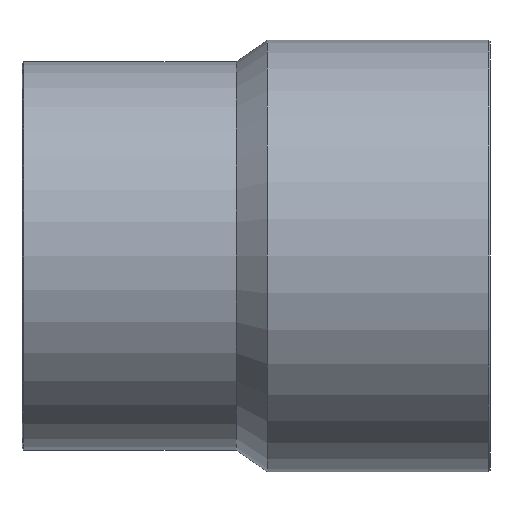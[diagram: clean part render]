
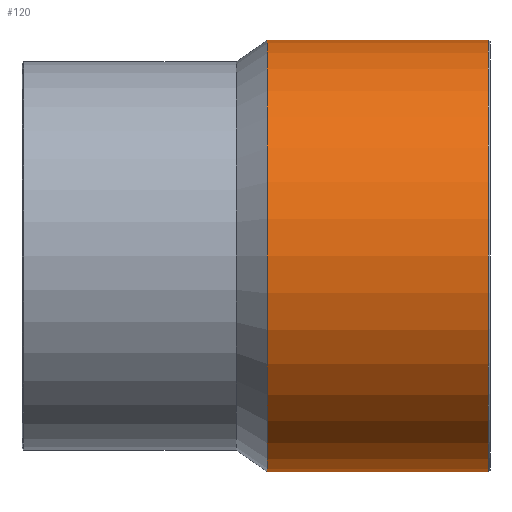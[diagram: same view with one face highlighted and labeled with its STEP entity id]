
A CAD part, front view. The second image highlights one B-rep face of the part: STEP entity #120.
In plain terms, the highlighted cylindrical face has radius 125 mm (diameter 250 mm), a full revolution.
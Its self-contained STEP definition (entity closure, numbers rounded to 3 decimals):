
#26=ORIENTED_EDGE('',*,*,#46,.T.);
#27=ORIENTED_EDGE('',*,*,#47,.F.);
#46=EDGE_CURVE('',#56,#56,#66,.T.);
#47=EDGE_CURVE('',#57,#57,#67,.T.);
#56=VERTEX_POINT('',#208);
#57=VERTEX_POINT('',#210);
#66=CIRCLE('',#144,125.);
#67=CIRCLE('',#145,125.);
#76=EDGE_LOOP('',(#26));
#77=EDGE_LOOP('',(#27));
#96=FACE_BOUND('',#76,.T.);
#97=FACE_BOUND('',#77,.T.);
#116=CYLINDRICAL_SURFACE('',#143,125.);
#120=ADVANCED_FACE('',(#96,#97),#116,.T.);
#143=AXIS2_PLACEMENT_3D('',#206,#165,#166);
#144=AXIS2_PLACEMENT_3D('',#207,#167,#168);
#145=AXIS2_PLACEMENT_3D('',#209,#169,#170);
#165=DIRECTION('',(-1.,0.,0.));
#166=DIRECTION('',(0.,0.,1.));
#167=DIRECTION('',(-1.,0.,0.));
#168=DIRECTION('',(0.,0.,1.));
#169=DIRECTION('',(-1.,0.,0.));
#170=DIRECTION('',(0.,0.,1.));
#206=CARTESIAN_POINT('',(-60.,0.,0.));
#207=CARTESIAN_POINT('',(137.,0.,0.));
#208=CARTESIAN_POINT('',(137.,0.,125.));
#209=CARTESIAN_POINT('',(9.,0.,0.));
#210=CARTESIAN_POINT('',(9.,0.,125.));
